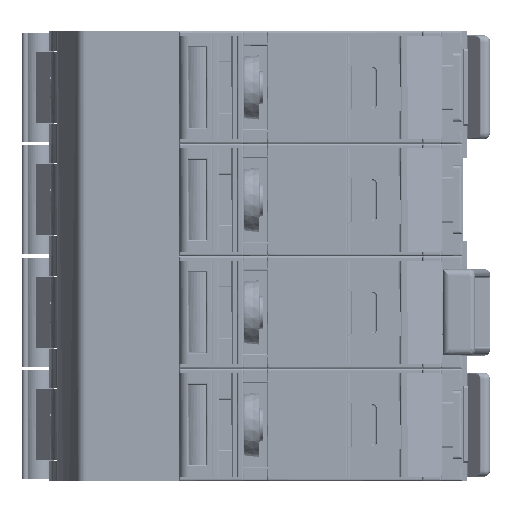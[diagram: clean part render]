
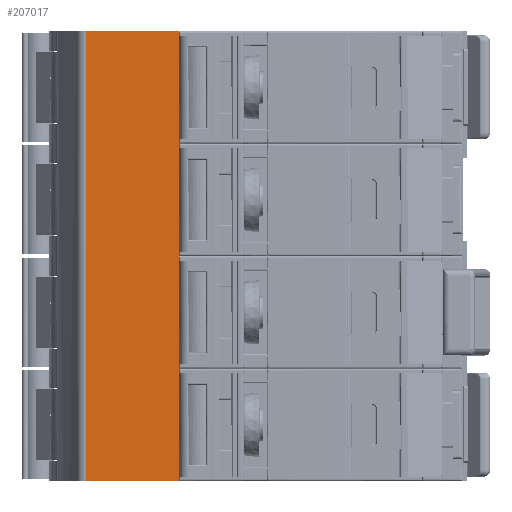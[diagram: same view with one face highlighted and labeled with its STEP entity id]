
A CAD part, left-side view. The second image highlights one B-rep face of the part: STEP entity #207017.
In plain terms, the highlighted planar face has unit normal (-1, 0, 0).
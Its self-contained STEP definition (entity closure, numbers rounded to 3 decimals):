
#35229 = AXIS2_PLACEMENT_3D ( 'NONE', #293158, #293159, #293161 ) ;
#123239 = LINE ( 'NONE', #123248, #288341 ) ;
#123248 = CARTESIAN_POINT ( 'NONE',  ( -28.088, 18.409, 61.329 ) ) ;
#123251 = DIRECTION ( 'NONE',  ( 0., -1., 0. ) ) ;
#138208 = EDGE_CURVE ( 'NONE', #274245, #274129, #253504, .T. ) ;
#138213 = EDGE_CURVE ( 'NONE', #274241, #274245, #253656, .T. ) ;
#138216 = EDGE_CURVE ( 'NONE', #274241, #274150, #253751, .T. ) ;
#173974 = EDGE_CURVE ( 'NONE', #274150, #274129, #123239, .T. ) ;
#201522 = VECTOR ( 'NONE', #253512, 1000. ) ;
#201548 = VECTOR ( 'NONE', #253664, 1000. ) ;
#201562 = VECTOR ( 'NONE', #253757, 1000. ) ;
#207017 = ADVANCED_FACE ( 'NONE', ( #293081 ), #293138, .F. ) ;
#252665 = ORIENTED_EDGE ( 'NONE', *, *, #173974, .F. ) ;
#252670 = ORIENTED_EDGE ( 'NONE', *, *, #138216, .F. ) ;
#252674 = ORIENTED_EDGE ( 'NONE', *, *, #138213, .T. ) ;
#252679 = ORIENTED_EDGE ( 'NONE', *, *, #138208, .T. ) ;
#253504 = LINE ( 'NONE', #253508, #201522 ) ;
#253508 = CARTESIAN_POINT ( 'NONE',  ( -28.088, 15.717, 7.297 ) ) ;
#253512 = DIRECTION ( 'NONE',  ( 0., 0., 1. ) ) ;
#253656 = LINE ( 'NONE', #253660, #201548 ) ;
#253660 = CARTESIAN_POINT ( 'NONE',  ( -28.088, 30.244, -8.775 ) ) ;
#253664 = DIRECTION ( 'NONE',  ( 0., -1., 0. ) ) ;
#253751 = LINE ( 'NONE', #253754, #201562 ) ;
#253754 = CARTESIAN_POINT ( 'NONE',  ( -28.088, 30.244, -7.32 ) ) ;
#253757 = DIRECTION ( 'NONE',  ( 0., 0., 1. ) ) ;
#267051 = EDGE_LOOP ( 'NONE', ( #252665, #252670, #252674, #252679 ) ) ;
#274129 = VERTEX_POINT ( 'NONE', #298969 ) ;
#274150 = VERTEX_POINT ( 'NONE', #298984 ) ;
#274241 = VERTEX_POINT ( 'NONE', #299040 ) ;
#274245 = VERTEX_POINT ( 'NONE', #299042 ) ;
#288341 = VECTOR ( 'NONE', #123251, 1000. ) ;
#293081 = FACE_OUTER_BOUND ( 'NONE', #267051, .T. ) ;
#293138 = PLANE ( 'NONE',  #35229 ) ;
#293158 = CARTESIAN_POINT ( 'NONE',  ( -28.088, 18.409, -7.32 ) ) ;
#293159 = DIRECTION ( 'NONE',  ( 1., 0., 0. ) ) ;
#293161 = DIRECTION ( 'NONE',  ( 0., 0., -1. ) ) ;
#298969 = CARTESIAN_POINT ( 'NONE',  ( -28.088, 15.717, 61.329 ) ) ;
#298984 = CARTESIAN_POINT ( 'NONE',  ( -28.088, 30.244, 61.329 ) ) ;
#299040 = CARTESIAN_POINT ( 'NONE',  ( -28.088, 30.244, -8.775 ) ) ;
#299042 = CARTESIAN_POINT ( 'NONE',  ( -28.088, 15.717, -8.775 ) ) ;
